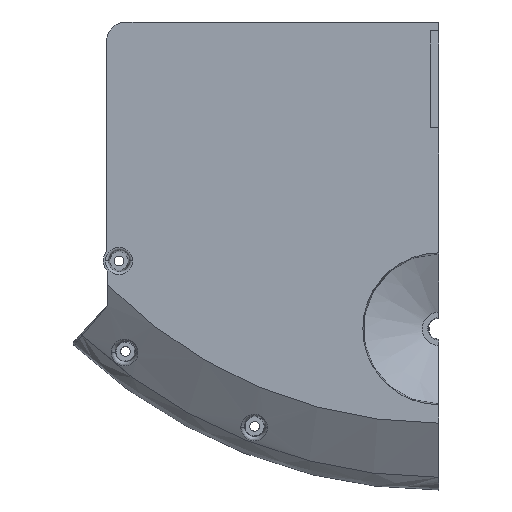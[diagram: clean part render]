
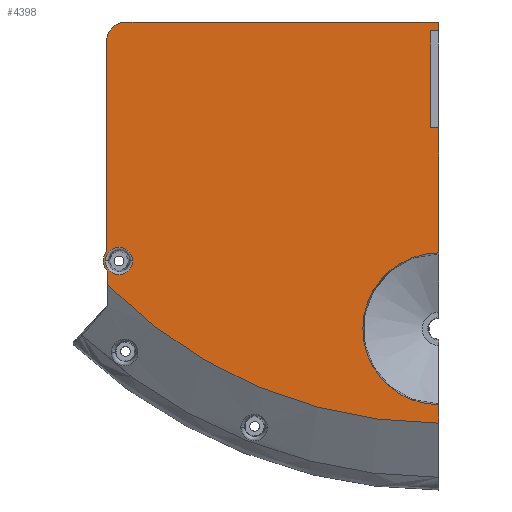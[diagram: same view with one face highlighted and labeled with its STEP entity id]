
A CAD part, front view. The second image highlights one B-rep face of the part: STEP entity #4398.
In plain terms, the highlighted planar face has unit normal (0, -1, 0).
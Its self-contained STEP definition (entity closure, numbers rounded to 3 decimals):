
#2=CARTESIAN_POINT('',(-99.,-29.,-94.));
#3=DIRECTION('',(0.,1.,0.));
#4=DIRECTION('',(1.,0.,0.));
#5=AXIS2_PLACEMENT_3D('',#2,#3,#4);
#7=CARTESIAN_POINT('',(-99.,-29.,-94.));
#8=DIRECTION('',(0.,1.,0.));
#9=DIRECTION('',(-1.,0.,0.));
#10=AXIS2_PLACEMENT_3D('',#7,#8,#9);
#12=DIRECTION('',(-1.,0.,0.));
#13=VECTOR('',#12,2.5);
#14=CARTESIAN_POINT('',(0.,-29.,-52.75));
#15=LINE('',#14,#13);
#16=DIRECTION('',(0.,0.,1.));
#17=VECTOR('',#16,30.);
#18=CARTESIAN_POINT('',(0.,-29.,-82.75));
#19=LINE('',#18,#17);
#20=DIRECTION('',(0.,0.,-1.));
#21=VECTOR('',#20,8.75);
#22=CARTESIAN_POINT('',(0.,-29.,-82.75));
#23=LINE('',#22,#21);
#24=CARTESIAN_POINT('',(0.,-29.,-115.));
#25=DIRECTION('',(0.,-1.,0.));
#26=DIRECTION('',(0.,0.,1.));
#27=AXIS2_PLACEMENT_3D('',#24,#25,#26);
#29=DIRECTION('',(0.,0.,-1.));
#30=VECTOR('',#29,5.715);
#31=CARTESIAN_POINT('',(0.,-29.,-138.5));
#32=LINE('',#31,#30);
#33=CARTESIAN_POINT('',(0.,-29.,0.));
#34=DIRECTION('',(0.,-1.,0.));
#35=DIRECTION('',(-0.711,0.,-0.703));
#36=AXIS2_PLACEMENT_3D('',#33,#34,#35);
#38=DIRECTION('',(0.,0.,-1.));
#39=VECTOR('',#38,4.11);
#40=CARTESIAN_POINT('',(-102.5,-29.,-97.338));
#41=LINE('',#40,#39);
#42=CARTESIAN_POINT('',(-99.,-29.,-94.));
#43=DIRECTION('',(0.,1.,0.));
#44=DIRECTION('',(-0.724,0.,-0.69));
#45=AXIS2_PLACEMENT_3D('',#42,#43,#44);
#47=DIRECTION('',(0.,0.,1.));
#48=VECTOR('',#47,65.055);
#49=CARTESIAN_POINT('',(-102.837,-29.,-91.055));
#50=LINE('',#49,#48);
#51=CARTESIAN_POINT('',(-96.837,-29.,-26.));
#52=DIRECTION('',(0.,-1.,0.));
#53=DIRECTION('',(0.,0.,1.));
#54=AXIS2_PLACEMENT_3D('',#51,#52,#53);
#56=DIRECTION('',(1.,0.,0.));
#57=VECTOR('',#56,96.837);
#58=CARTESIAN_POINT('',(-96.837,-29.,-20.));
#59=LINE('',#58,#57);
#60=DIRECTION('',(0.,0.,-1.));
#61=VECTOR('',#60,2.75);
#62=CARTESIAN_POINT('',(0.,-29.,-20.));
#63=LINE('',#62,#61);
#64=DIRECTION('',(-1.,0.,0.));
#65=VECTOR('',#64,2.5);
#66=CARTESIAN_POINT('',(0.,-29.,-22.75));
#67=LINE('',#66,#65);
#68=DIRECTION('',(0.,0.,1.));
#69=VECTOR('',#68,30.);
#70=CARTESIAN_POINT('',(-2.5,-29.,-52.75));
#71=LINE('',#70,#69);
#579=CARTESIAN_POINT('',(-102.5,-29.,-97.338));
#598=CARTESIAN_POINT('',(-102.837,-29.,-91.055));
#3540=CARTESIAN_POINT('',(-94.779,-29.,-94.));
#3541=CARTESIAN_POINT('',(-103.221,-29.,-94.));
#3542=VERTEX_POINT('',#3540);
#3543=VERTEX_POINT('',#3541);
#3601=VERTEX_POINT('',#579);
#3636=CARTESIAN_POINT('',(-102.5,-29.,-101.449));
#3637=VERTEX_POINT('',#3636);
#3640=CARTESIAN_POINT('',(-96.837,-29.,-20.));
#3641=CARTESIAN_POINT('',(-102.837,-29.,-26.));
#3642=VERTEX_POINT('',#3640);
#3643=VERTEX_POINT('',#3641);
#3670=VERTEX_POINT('',#598);
#4246=CARTESIAN_POINT('',(0.,-29.,-144.215));
#4248=VERTEX_POINT('',#4246);
#4253=CARTESIAN_POINT('',(0.,-29.,-138.5));
#4254=VERTEX_POINT('',#4253);
#4285=CARTESIAN_POINT('',(0.,-29.,-91.5));
#4287=VERTEX_POINT('',#4285);
#4316=CARTESIAN_POINT('',(0.,-29.,-20.));
#4317=VERTEX_POINT('',#4316);
#4328=CARTESIAN_POINT('',(0.,-29.,-22.75));
#4329=CARTESIAN_POINT('',(-2.5,-29.,-22.75));
#4330=VERTEX_POINT('',#4328);
#4331=VERTEX_POINT('',#4329);
#4332=CARTESIAN_POINT('',(-2.5,-29.,-52.75));
#4333=VERTEX_POINT('',#4332);
#4339=CARTESIAN_POINT('',(0.,-29.,-52.75));
#4341=VERTEX_POINT('',#4339);
#4342=CARTESIAN_POINT('',(0.,-29.,-82.75));
#4343=VERTEX_POINT('',#4342);
#4357=CARTESIAN_POINT('',(0.,-29.,0.));
#4358=DIRECTION('',(0.,-1.,0.));
#4359=DIRECTION('',(0.,0.,-1.));
#4360=AXIS2_PLACEMENT_3D('',#4357,#4358,#4359);
#4361=PLANE('',#4360);
#4363=ORIENTED_EDGE('',*,*,#4362,.F.);
#4365=ORIENTED_EDGE('',*,*,#4364,.F.);
#4367=ORIENTED_EDGE('',*,*,#4366,.T.);
#4369=ORIENTED_EDGE('',*,*,#4368,.T.);
#4371=ORIENTED_EDGE('',*,*,#4370,.T.);
#4373=ORIENTED_EDGE('',*,*,#4372,.F.);
#4375=ORIENTED_EDGE('',*,*,#4374,.F.);
#4377=ORIENTED_EDGE('',*,*,#4376,.T.);
#4379=ORIENTED_EDGE('',*,*,#4378,.T.);
#4381=ORIENTED_EDGE('',*,*,#4380,.F.);
#4383=ORIENTED_EDGE('',*,*,#4382,.T.);
#4385=ORIENTED_EDGE('',*,*,#4384,.T.);
#4387=ORIENTED_EDGE('',*,*,#4386,.T.);
#4389=ORIENTED_EDGE('',*,*,#4388,.F.);
#4390=EDGE_LOOP('',(#4363,#4365,#4367,#4369,#4371,#4373,#4375,#4377,#4379,#4381,
#4383,#4385,#4387,#4389));
#4391=FACE_OUTER_BOUND('',#4390,.F.);
#4393=ORIENTED_EDGE('',*,*,#4392,.F.);
#4395=ORIENTED_EDGE('',*,*,#4394,.F.);
#4396=EDGE_LOOP('',(#4393,#4395));
#4397=FACE_BOUND('',#4396,.F.);
#4398=ADVANCED_FACE('',(#4391,#4397),#4361,.T.);
#6=CIRCLE('',#5,4.221);
#11=CIRCLE('',#10,4.221);
#28=CIRCLE('',#27,23.5);
#37=CIRCLE('',#36,144.215);
#46=CIRCLE('',#45,4.837);
#55=CIRCLE('',#54,6.);
#4362=EDGE_CURVE('',#4341,#4333,#15,.T.);
#4364=EDGE_CURVE('',#4343,#4341,#19,.T.);
#4366=EDGE_CURVE('',#4343,#4287,#23,.T.);
#4368=EDGE_CURVE('',#4287,#4254,#28,.T.);
#4370=EDGE_CURVE('',#4254,#4248,#32,.T.);
#4372=EDGE_CURVE('',#3637,#4248,#37,.T.);
#4374=EDGE_CURVE('',#3601,#3637,#41,.T.);
#4376=EDGE_CURVE('',#3601,#3670,#46,.T.);
#4378=EDGE_CURVE('',#3670,#3643,#50,.T.);
#4380=EDGE_CURVE('',#3642,#3643,#55,.T.);
#4382=EDGE_CURVE('',#3642,#4317,#59,.T.);
#4384=EDGE_CURVE('',#4317,#4330,#63,.T.);
#4386=EDGE_CURVE('',#4330,#4331,#67,.T.);
#4388=EDGE_CURVE('',#4333,#4331,#71,.T.);
#4392=EDGE_CURVE('',#3542,#3543,#6,.T.);
#4394=EDGE_CURVE('',#3543,#3542,#11,.T.);
